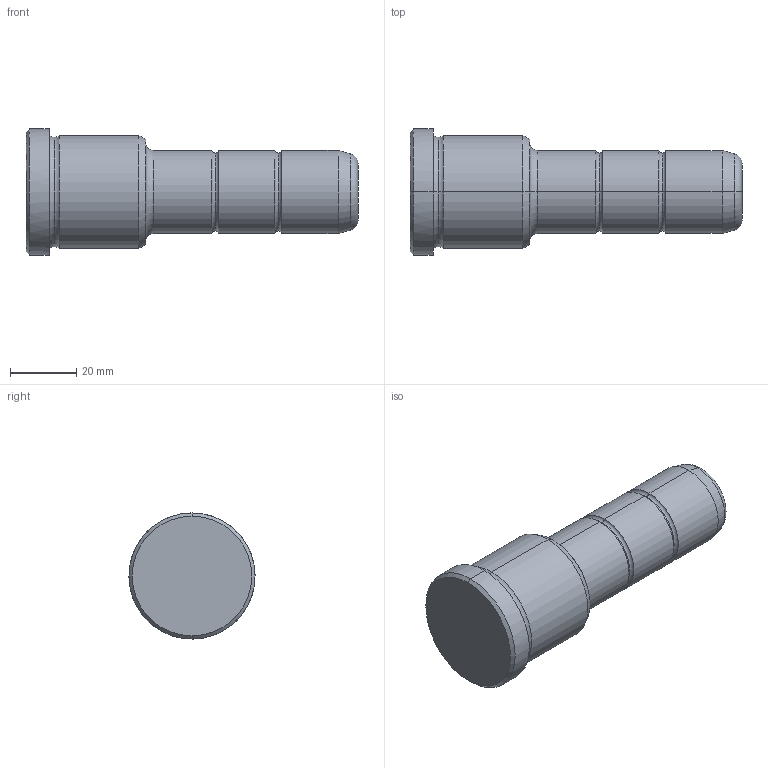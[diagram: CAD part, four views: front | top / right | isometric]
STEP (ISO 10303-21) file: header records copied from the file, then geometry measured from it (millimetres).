
FILE_DESCRIPTION(('CATIA V5 STEP Exchange'),'2;1');
FILE_NAME('C:\Users\Utente\Desktop\IO LAVORO\3D X SITO CF\X SITO\PLASTICA\351\351-25X36X100.stp','2021-08-28T09:19:55+00:00',('none'),('none'),'CATIA Version 5 Release 20 GA (IN-10)','CATIA V5 STEP AP203','none');
FILE_SCHEMA(('CONFIG_CONTROL_DESIGN'));
Length unit declared in the file: millimetre
Products named in the file (1): 351-25X36X100
Bounding box: 100 x 38 x 38 mm (x, y, z)
Volume: 64895.4 mm3; surface area: 10918.1 mm2
Topology: 1 solids, 1 shells, 36 faces, 102 edges, 70 vertices
Faces by surface type: torus 16, cylinder 10, cone 6, plane 4
Entity records: 1292 total; most frequent: CARTESIAN_POINT 321, ORIENTED_EDGE 204, DIRECTION 166, AXIS2_PLACEMENT_3D 115, EDGE_CURVE 102, CIRCLE 78, VERTEX_POINT 70, EDGE_LOOP 38
